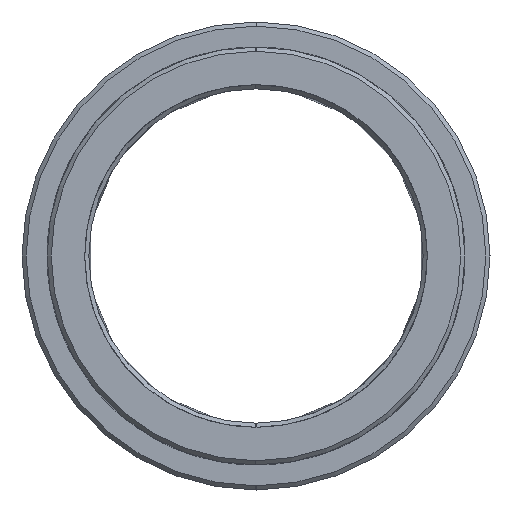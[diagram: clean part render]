
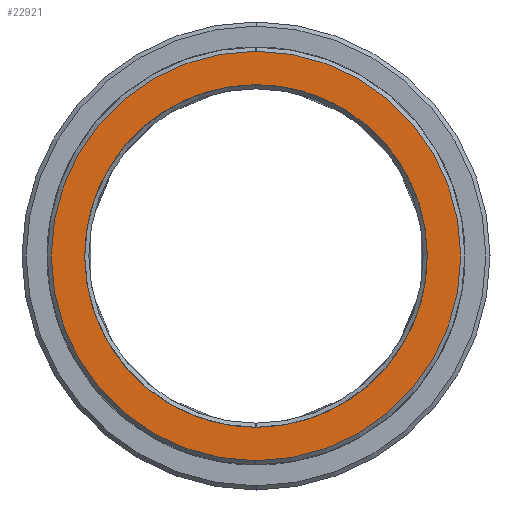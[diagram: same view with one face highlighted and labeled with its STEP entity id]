
A CAD part, left-side view. The second image highlights one B-rep face of the part: STEP entity #22921.
In plain terms, the highlighted planar face has unit normal (1, 0, 0).
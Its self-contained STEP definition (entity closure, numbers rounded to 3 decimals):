
#22838=CARTESIAN_POINT('Axis2P3D Location',(-25.,0.,0.)) ;
#22843=CARTESIAN_POINT('Axis2P3D Location',(-25.,0.,0.)) ;
#22847=CARTESIAN_POINT('Vertex',(-25.,0.,-24.5)) ;
#22849=CARTESIAN_POINT('Vertex',(-25.,0.,24.5)) ;
#22852=CARTESIAN_POINT('Axis2P3D Location',(-25.,0.,0.)) ;
#22862=CARTESIAN_POINT('Control Point',(-25.,0.,20.5)) ;
#22863=CARTESIAN_POINT('Control Point',(-25.,1.996,20.5)) ;
#22864=CARTESIAN_POINT('Control Point',(-25.,3.993,20.257)) ;
#22865=CARTESIAN_POINT('Control Point',(-25.,5.949,19.771)) ;
#22866=CARTESIAN_POINT('Control Point',(-25.,9.705,18.332)) ;
#22867=CARTESIAN_POINT('Control Point',(-25.,13.007,16.035)) ;
#22868=CARTESIAN_POINT('Control Point',(-25.,14.509,14.69)) ;
#22869=CARTESIAN_POINT('Control Point',(-25.,17.155,11.661)) ;
#22870=CARTESIAN_POINT('Control Point',(-25.,18.998,8.086)) ;
#22871=CARTESIAN_POINT('Control Point',(-25.,19.696,6.194)) ;
#22872=CARTESIAN_POINT('Control Point',(-25.,20.617,2.279)) ;
#22873=CARTESIAN_POINT('Control Point',(-25.,20.573,-1.743)) ;
#22874=CARTESIAN_POINT('Control Point',(-25.,20.305,-3.741)) ;
#22875=CARTESIAN_POINT('Control Point',(-25.,19.288,-7.633)) ;
#22876=CARTESIAN_POINT('Control Point',(-25.,17.367,-11.166)) ;
#22877=CARTESIAN_POINT('Control Point',(-25.,16.195,-12.807)) ;
#22878=CARTESIAN_POINT('Control Point',(-25.,13.475,-15.77)) ;
#22879=CARTESIAN_POINT('Control Point',(-25.,10.124,-17.994)) ;
#22880=CARTESIAN_POINT('Control Point',(-25.,8.32,-18.896)) ;
#22881=CARTESIAN_POINT('Control Point',(-25.,5.568,-19.873)) ;
#22882=CARTESIAN_POINT('Control Point',(-25.,2.705,-20.351)) ;
#22883=CARTESIAN_POINT('Control Point',(-25.,1.806,-20.45)) ;
#22884=CARTESIAN_POINT('Control Point',(-25.,0.903,-20.5)) ;
#22885=CARTESIAN_POINT('Control Point',(-25.,0.,-20.5)) ;
#22886=CARTESIAN_POINT('Vertex',(-25.,0.,20.5)) ;
#22888=CARTESIAN_POINT('Vertex',(-25.,0.,-20.5)) ;
#22892=CARTESIAN_POINT('Control Point',(-25.,0.,-20.5)) ;
#22893=CARTESIAN_POINT('Control Point',(-25.,-1.996,-20.5)) ;
#22894=CARTESIAN_POINT('Control Point',(-25.,-3.993,-20.257)) ;
#22895=CARTESIAN_POINT('Control Point',(-25.,-5.949,-19.771)) ;
#22896=CARTESIAN_POINT('Control Point',(-25.,-9.705,-18.332)) ;
#22897=CARTESIAN_POINT('Control Point',(-25.,-13.007,-16.035)) ;
#22898=CARTESIAN_POINT('Control Point',(-25.,-14.509,-14.69)) ;
#22899=CARTESIAN_POINT('Control Point',(-25.,-17.155,-11.661)) ;
#22900=CARTESIAN_POINT('Control Point',(-25.,-18.998,-8.086)) ;
#22901=CARTESIAN_POINT('Control Point',(-25.,-19.696,-6.194)) ;
#22902=CARTESIAN_POINT('Control Point',(-25.,-20.617,-2.279)) ;
#22903=CARTESIAN_POINT('Control Point',(-25.,-20.573,1.743)) ;
#22904=CARTESIAN_POINT('Control Point',(-25.,-20.305,3.741)) ;
#22905=CARTESIAN_POINT('Control Point',(-25.,-19.288,7.633)) ;
#22906=CARTESIAN_POINT('Control Point',(-25.,-17.367,11.166)) ;
#22907=CARTESIAN_POINT('Control Point',(-25.,-16.195,12.807)) ;
#22908=CARTESIAN_POINT('Control Point',(-25.,-13.475,15.77)) ;
#22909=CARTESIAN_POINT('Control Point',(-25.,-10.124,17.994)) ;
#22910=CARTESIAN_POINT('Control Point',(-25.,-8.32,18.896)) ;
#22911=CARTESIAN_POINT('Control Point',(-25.,-5.568,19.873)) ;
#22912=CARTESIAN_POINT('Control Point',(-25.,-2.705,20.351)) ;
#22913=CARTESIAN_POINT('Control Point',(-25.,-1.806,20.45)) ;
#22914=CARTESIAN_POINT('Control Point',(-25.,-0.903,20.5)) ;
#22915=CARTESIAN_POINT('Control Point',(-25.,0.,20.5)) ;
#22839=DIRECTION('Axis2P3D Direction',(1.,0.,0.)) ;
#22840=DIRECTION('Axis2P3D XDirection',(0.,1.,0.)) ;
#22844=DIRECTION('Axis2P3D Direction',(1.,0.,0.)) ;
#22853=DIRECTION('Axis2P3D Direction',(1.,0.,0.)) ;
#22841=AXIS2_PLACEMENT_3D('Plane Axis2P3D',#22838,#22839,#22840) ;
#22845=AXIS2_PLACEMENT_3D('Circle Axis2P3D',#22843,#22844,$) ;
#22854=AXIS2_PLACEMENT_3D('Circle Axis2P3D',#22852,#22853,$) ;
#22858=ORIENTED_EDGE('',*,*,#22851,.T.) ;
#22859=ORIENTED_EDGE('',*,*,#22856,.T.) ;
#22918=ORIENTED_EDGE('',*,*,#22890,.T.) ;
#22919=ORIENTED_EDGE('',*,*,#22916,.T.) ;
#22920=FACE_BOUND('',#22917,.T.) ;
#22921=ADVANCED_FACE('MANIFOLD_SOLID_BREP #10309',(#22860,#22920),#22842,.T.) ;
#22861=B_SPLINE_CURVE_WITH_KNOTS('',5,(#22862,#22863,#22864,#22865,#22866,#22867,#22868,#22869,#22870,#22871,#22872,#22873,#22874,#22875,#22876,#22877,#22878,#22879,#22880,#22881,#22882,#22883,#22884,#22885),.UNSPECIFIED.,.F.,.U.,(6,3,3,3,3,3,3,6),(0.,14.116,28.232,42.347,56.463,70.579,84.695,91.078),.UNSPECIFIED.) ;
#22891=B_SPLINE_CURVE_WITH_KNOTS('',5,(#22892,#22893,#22894,#22895,#22896,#22897,#22898,#22899,#22900,#22901,#22902,#22903,#22904,#22905,#22906,#22907,#22908,#22909,#22910,#22911,#22912,#22913,#22914,#22915),.UNSPECIFIED.,.F.,.U.,(6,3,3,3,3,3,3,6),(0.,14.116,28.232,42.347,56.463,70.579,84.695,91.078),.UNSPECIFIED.) ;
#22846=CIRCLE('generated circle',#22845,24.5) ;
#22855=CIRCLE('generated circle',#22854,24.5) ;
#22851=EDGE_CURVE('',#22848,#22850,#22846,.T.) ;
#22856=EDGE_CURVE('',#22850,#22848,#22855,.T.) ;
#22890=EDGE_CURVE('',#22887,#22889,#22861,.T.) ;
#22916=EDGE_CURVE('',#22889,#22887,#22891,.T.) ;
#22857=EDGE_LOOP('',(#22858,#22859)) ;
#22917=EDGE_LOOP('',(#22918,#22919)) ;
#22860=FACE_OUTER_BOUND('',#22857,.T.) ;
#22842=PLANE('Plane',#22841) ;
#22848=VERTEX_POINT('',#22847) ;
#22850=VERTEX_POINT('',#22849) ;
#22887=VERTEX_POINT('',#22886) ;
#22889=VERTEX_POINT('',#22888) ;
